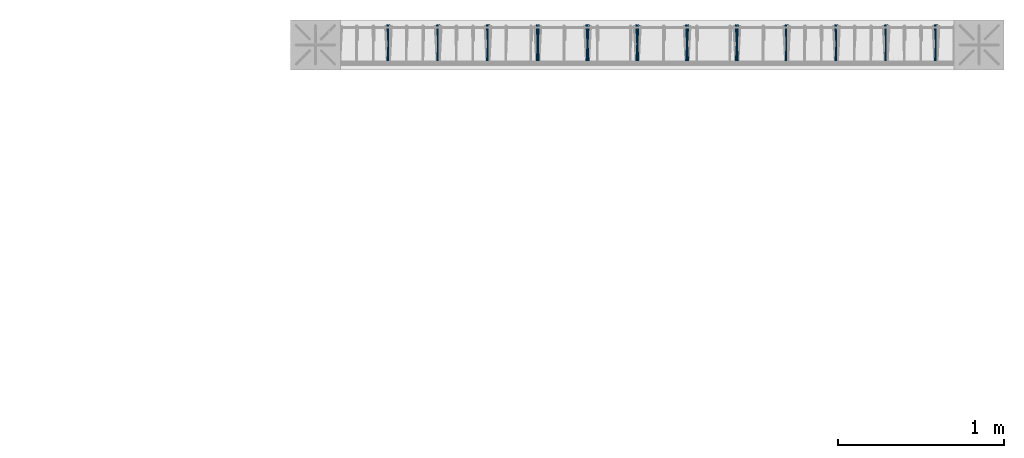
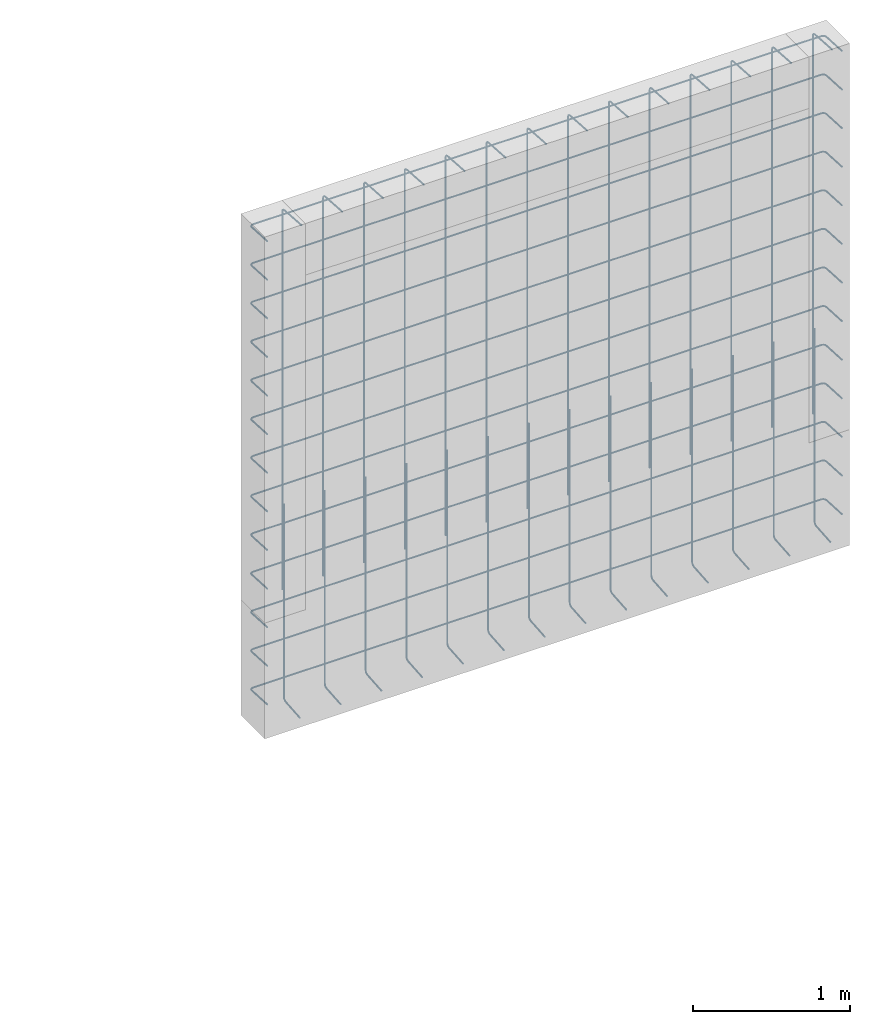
# One storey, part 10 of 11: 1 reinforcing bar.
"""IFC2X3 building model written with IfcOpenShell, lengths in metres."""

from ifc_helpers import new_model, entity, si_unit, direction, frame, origin, place, context, subcontext, project, spatial, shape, source, transform, mapped, element, save


model = new_model("IFC2X3")

# Units and contexts
model_context = context("Model", 3, precision=0.0, world=origin(), true_north=direction((0.0, 1.0)))
plan_context = context("Plan", 3, precision=0.0, world=origin(), true_north=direction((0.0, 1.0)))
body_context = subcontext(model_context, "Body", "Model", "MODEL_VIEW", scale=1.0)
ifc_project = project(units=[si_unit("LENGTHUNIT", "METRE"), si_unit("AREAUNIT", "SQUARE_METRE"), si_unit("VOLUMEUNIT", "CUBIC_METRE"), si_unit("PLANEANGLEUNIT", "RADIAN"), si_unit("THERMODYNAMICTEMPERATUREUNIT", "DEGREE_CELSIUS"), si_unit("FORCEUNIT", "NEWTON"), si_unit("MASSUNIT", "GRAM", prefix="KILO")], contexts=[model_context, plan_context])

# Site, building, storey
placement = place(None, origin())
site = spatial("IfcSite", under=ifc_project, at=placement, Name="Default Site", CompositionType="ELEMENT")
building = spatial("IfcBuilding", under=site, at=placement, Name="Default Building", CompositionType="ELEMENT")
storey_placement = place(placement, frame((0.0, 0.0, 3.0), z_axis=(1.0, 0.0, 0.0), x_axis=(0.0, 0.0, 1.0)))
storey = spatial("IfcBuildingStorey", under=building, at=storey_placement, Name="Piano 1", CompositionType="ELEMENT", Elevation=3.0)

# Reinforcing bar
shared_shape_1 = source(origin(), body_context, None, "AdvancedSweptSolid", [
    entity("IfcSweptDiskSolid", entity("IfcCompositeCurve", [entity("IfcCompositeCurveSegment", "CONTINUOUS", True, entity("IfcPolyline", [entity("IfcCartesianPoint", [0.0, 0.0, 0.0]), entity("IfcCartesianPoint", [0.0, 0.200034, -0.010716]), entity("IfcCartesianPoint", [0.003215, 0.212017, -0.011358]), entity("IfcCartesianPoint", [0.012, 0.220789, -0.011828]), entity("IfcCartesianPoint", [0.024, 0.224, -0.012]), entity("IfcCartesianPoint", [4.2, 0.224, -0.012]), entity("IfcCartesianPoint", [4.212, 0.220789, -0.011828]), entity("IfcCartesianPoint", [4.220785, 0.212017, -0.011358]), entity("IfcCartesianPoint", [4.224, 0.200034, -0.010716]), entity("IfcCartesianPoint", [4.224, 0.0, 0.0])]))], False), 0.006, 0.0, 0.0),
])
shared_shape_2 = source(origin(), body_context, None, "MappedRepresentation", [mapped(shared_shape_1, transform((32.388, 2.882, 2.935)))])
shared_shape_3 = source(origin(), body_context, None, "AdvancedSweptSolid", [
    entity("IfcSweptDiskSolid", entity("IfcCompositeCurve", [entity("IfcCompositeCurveSegment", "CONTINUOUS", True, entity("IfcPolyline", [entity("IfcCartesianPoint", [0.0, 0.0, 0.0]), entity("IfcCartesianPoint", [0.0, 0.200034, -0.010716]), entity("IfcCartesianPoint", [0.003215, 0.212017, -0.011358]), entity("IfcCartesianPoint", [0.012, 0.220789, -0.011828]), entity("IfcCartesianPoint", [0.024, 0.224, -0.012]), entity("IfcCartesianPoint", [4.2, 0.224, -0.012]), entity("IfcCartesianPoint", [4.212, 0.220789, -0.011828]), entity("IfcCartesianPoint", [4.220785, 0.212017, -0.011358]), entity("IfcCartesianPoint", [4.224, 0.200034, -0.010716]), entity("IfcCartesianPoint", [4.224, 0.0, 0.0])]))], False), 0.006, 0.0, 0.0),
])
shared_shape_4 = source(origin(), body_context, None, "MappedRepresentation", [mapped(shared_shape_3, transform((32.388, 2.882, 2.635)))])
shared_shape_5 = source(origin(), body_context, None, "AdvancedSweptSolid", [
    entity("IfcSweptDiskSolid", entity("IfcCompositeCurve", [entity("IfcCompositeCurveSegment", "CONTINUOUS", True, entity("IfcPolyline", [entity("IfcCartesianPoint", [0.0, 0.0, 0.0]), entity("IfcCartesianPoint", [0.0, 0.200034, -0.010716]), entity("IfcCartesianPoint", [0.003215, 0.212017, -0.011358]), entity("IfcCartesianPoint", [0.012, 0.220789, -0.011828]), entity("IfcCartesianPoint", [0.024, 0.224, -0.012]), entity("IfcCartesianPoint", [4.2, 0.224, -0.012]), entity("IfcCartesianPoint", [4.212, 0.220789, -0.011828]), entity("IfcCartesianPoint", [4.220785, 0.212017, -0.011358]), entity("IfcCartesianPoint", [4.224, 0.200034, -0.010716]), entity("IfcCartesianPoint", [4.224, 0.0, 0.0])]))], False), 0.006, 0.0, 0.0),
])
shared_shape_6 = source(origin(), body_context, None, "MappedRepresentation", [mapped(shared_shape_5, transform((32.388, 2.882, 2.335)))])
shared_shape_7 = source(origin(), body_context, None, "AdvancedSweptSolid", [
    entity("IfcSweptDiskSolid", entity("IfcCompositeCurve", [entity("IfcCompositeCurveSegment", "CONTINUOUS", True, entity("IfcPolyline", [entity("IfcCartesianPoint", [0.0, 0.0, 0.0]), entity("IfcCartesianPoint", [0.0, 0.200034, -0.010716]), entity("IfcCartesianPoint", [0.003215, 0.212017, -0.011358]), entity("IfcCartesianPoint", [0.012, 0.220789, -0.011828]), entity("IfcCartesianPoint", [0.024, 0.224, -0.012]), entity("IfcCartesianPoint", [4.2, 0.224, -0.012]), entity("IfcCartesianPoint", [4.212, 0.220789, -0.011828]), entity("IfcCartesianPoint", [4.220785, 0.212017, -0.011358]), entity("IfcCartesianPoint", [4.224, 0.200034, -0.010716]), entity("IfcCartesianPoint", [4.224, 0.0, 0.0])]))], False), 0.006, 0.0, 0.0),
])
shared_shape_8 = source(origin(), body_context, None, "MappedRepresentation", [mapped(shared_shape_7, transform((32.388, 2.882, 2.035)))])
shared_shape_9 = source(origin(), body_context, None, "AdvancedSweptSolid", [
    entity("IfcSweptDiskSolid", entity("IfcCompositeCurve", [entity("IfcCompositeCurveSegment", "CONTINUOUS", True, entity("IfcPolyline", [entity("IfcCartesianPoint", [0.0, 0.0, 0.0]), entity("IfcCartesianPoint", [0.0, 0.200034, -0.010716]), entity("IfcCartesianPoint", [0.003215, 0.212017, -0.011358]), entity("IfcCartesianPoint", [0.012, 0.220789, -0.011828]), entity("IfcCartesianPoint", [0.024, 0.224, -0.012]), entity("IfcCartesianPoint", [4.2, 0.224, -0.012]), entity("IfcCartesianPoint", [4.212, 0.220789, -0.011828]), entity("IfcCartesianPoint", [4.220785, 0.212017, -0.011358]), entity("IfcCartesianPoint", [4.224, 0.200034, -0.010716]), entity("IfcCartesianPoint", [4.224, 0.0, 0.0])]))], False), 0.006, 0.0, 0.0),
])
shared_shape_10 = source(origin(), body_context, None, "MappedRepresentation", [mapped(shared_shape_9, transform((32.388, 2.882, 1.735)))])
shared_shape_11 = source(origin(), body_context, None, "AdvancedSweptSolid", [
    entity("IfcSweptDiskSolid", entity("IfcCompositeCurve", [entity("IfcCompositeCurveSegment", "CONTINUOUS", True, entity("IfcPolyline", [entity("IfcCartesianPoint", [0.0, 0.0, 0.0]), entity("IfcCartesianPoint", [0.0, 0.200034, -0.010716]), entity("IfcCartesianPoint", [0.003215, 0.212017, -0.011358]), entity("IfcCartesianPoint", [0.012, 0.220789, -0.011828]), entity("IfcCartesianPoint", [0.024, 0.224, -0.012]), entity("IfcCartesianPoint", [4.2, 0.224, -0.012]), entity("IfcCartesianPoint", [4.212, 0.220789, -0.011828]), entity("IfcCartesianPoint", [4.220785, 0.212017, -0.011358]), entity("IfcCartesianPoint", [4.224, 0.200034, -0.010716]), entity("IfcCartesianPoint", [4.224, 0.0, 0.0])]))], False), 0.006, 0.0, 0.0),
])
shared_shape_12 = source(origin(), body_context, None, "MappedRepresentation", [mapped(shared_shape_11, transform((32.388, 2.882, 1.435)))])
shared_shape_13 = source(origin(), body_context, None, "AdvancedSweptSolid", [
    entity("IfcSweptDiskSolid", entity("IfcCompositeCurve", [entity("IfcCompositeCurveSegment", "CONTINUOUS", True, entity("IfcPolyline", [entity("IfcCartesianPoint", [0.0, 0.0, 0.0]), entity("IfcCartesianPoint", [0.0, 0.200034, -0.010716]), entity("IfcCartesianPoint", [0.003215, 0.212017, -0.011358]), entity("IfcCartesianPoint", [0.012, 0.220789, -0.011828]), entity("IfcCartesianPoint", [0.024, 0.224, -0.012]), entity("IfcCartesianPoint", [4.2, 0.224, -0.012]), entity("IfcCartesianPoint", [4.212, 0.220789, -0.011828]), entity("IfcCartesianPoint", [4.220785, 0.212017, -0.011358]), entity("IfcCartesianPoint", [4.224, 0.200034, -0.010716]), entity("IfcCartesianPoint", [4.224, 0.0, 0.0])]))], False), 0.006, 0.0, 0.0),
])
shared_shape_14 = source(origin(), body_context, None, "MappedRepresentation", [mapped(shared_shape_13, transform((32.388, 2.882, 1.135)))])
shared_shape_15 = source(origin(), body_context, None, "AdvancedSweptSolid", [
    entity("IfcSweptDiskSolid", entity("IfcCompositeCurve", [entity("IfcCompositeCurveSegment", "CONTINUOUS", True, entity("IfcPolyline", [entity("IfcCartesianPoint", [0.0, 0.0, 0.0]), entity("IfcCartesianPoint", [0.0, 0.200034, -0.010716]), entity("IfcCartesianPoint", [0.003215, 0.212017, -0.011358]), entity("IfcCartesianPoint", [0.012, 0.220789, -0.011828]), entity("IfcCartesianPoint", [0.024, 0.224, -0.012]), entity("IfcCartesianPoint", [4.2, 0.224, -0.012]), entity("IfcCartesianPoint", [4.212, 0.220789, -0.011828]), entity("IfcCartesianPoint", [4.220785, 0.212017, -0.011358]), entity("IfcCartesianPoint", [4.224, 0.200034, -0.010716]), entity("IfcCartesianPoint", [4.224, 0.0, 0.0])]))], False), 0.006, 0.0, 0.0),
])
shared_shape_16 = source(origin(), body_context, None, "MappedRepresentation", [mapped(shared_shape_15, transform((32.388, 2.882, 0.835)))])
shared_shape_17 = source(origin(), body_context, None, "AdvancedSweptSolid", [
    entity("IfcSweptDiskSolid", entity("IfcCompositeCurve", [entity("IfcCompositeCurveSegment", "CONTINUOUS", True, entity("IfcPolyline", [entity("IfcCartesianPoint", [0.0, 0.0, 0.0]), entity("IfcCartesianPoint", [0.0, 0.200034, -0.010716]), entity("IfcCartesianPoint", [0.003215, 0.212017, -0.011358]), entity("IfcCartesianPoint", [0.012, 0.220789, -0.011828]), entity("IfcCartesianPoint", [0.024, 0.224, -0.012]), entity("IfcCartesianPoint", [4.2, 0.224, -0.012]), entity("IfcCartesianPoint", [4.212, 0.220789, -0.011828]), entity("IfcCartesianPoint", [4.220785, 0.212017, -0.011358]), entity("IfcCartesianPoint", [4.224, 0.200034, -0.010716]), entity("IfcCartesianPoint", [4.224, 0.0, 0.0])]))], False), 0.006, 0.0, 0.0),
])
shared_shape_18 = source(origin(), body_context, None, "MappedRepresentation", [mapped(shared_shape_17, transform((32.388, 2.882, 0.535)))])
shared_shape_19 = source(origin(), body_context, None, "AdvancedSweptSolid", [
    entity("IfcSweptDiskSolid", entity("IfcCompositeCurve", [entity("IfcCompositeCurveSegment", "CONTINUOUS", True, entity("IfcPolyline", [entity("IfcCartesianPoint", [0.0, 0.0, 0.0]), entity("IfcCartesianPoint", [0.0, 0.200034, -0.010716]), entity("IfcCartesianPoint", [0.003215, 0.212017, -0.011358]), entity("IfcCartesianPoint", [0.012, 0.220789, -0.011828]), entity("IfcCartesianPoint", [0.024, 0.224, -0.012]), entity("IfcCartesianPoint", [4.2, 0.224, -0.012]), entity("IfcCartesianPoint", [4.212, 0.220789, -0.011828]), entity("IfcCartesianPoint", [4.220785, 0.212017, -0.011358]), entity("IfcCartesianPoint", [4.224, 0.200034, -0.010716]), entity("IfcCartesianPoint", [4.224, 0.0, 0.0])]))], False), 0.006, 0.0, 0.0),
])
shared_shape_20 = source(origin(), body_context, None, "MappedRepresentation", [mapped(shared_shape_19, transform((32.388, 2.882, 0.235)))])
shared_shape_21 = source(origin(), body_context, None, "AdvancedSweptSolid", [
    entity("IfcSweptDiskSolid", entity("IfcCompositeCurve", [entity("IfcCompositeCurveSegment", "CONTINUOUS", True, entity("IfcPolyline", [entity("IfcCartesianPoint", [0.0, 0.0, 0.0]), entity("IfcCartesianPoint", [0.0, 0.200034, -0.010716]), entity("IfcCartesianPoint", [0.003215, 0.212017, -0.011358]), entity("IfcCartesianPoint", [0.012, 0.220789, -0.011828]), entity("IfcCartesianPoint", [0.024, 0.224, -0.012]), entity("IfcCartesianPoint", [4.2, 0.224, -0.012]), entity("IfcCartesianPoint", [4.212, 0.220789, -0.011828]), entity("IfcCartesianPoint", [4.220785, 0.212017, -0.011358]), entity("IfcCartesianPoint", [4.224, 0.200034, -0.010716]), entity("IfcCartesianPoint", [4.224, 0.0, 0.0])]))], False), 0.006, 0.0, 0.0),
])
shared_shape_22 = source(origin(), body_context, None, "MappedRepresentation", [mapped(shared_shape_21, transform((32.388, 2.882, -0.065)))])
shared_shape_23 = source(origin(), body_context, None, "AdvancedSweptSolid", [
    entity("IfcSweptDiskSolid", entity("IfcCompositeCurve", [entity("IfcCompositeCurveSegment", "CONTINUOUS", True, entity("IfcPolyline", [entity("IfcCartesianPoint", [0.0, 0.0, 0.0]), entity("IfcCartesianPoint", [0.0, 0.200034, -0.010716]), entity("IfcCartesianPoint", [0.003215, 0.212017, -0.011358]), entity("IfcCartesianPoint", [0.012, 0.220789, -0.011828]), entity("IfcCartesianPoint", [0.024, 0.224, -0.012]), entity("IfcCartesianPoint", [4.2, 0.224, -0.012]), entity("IfcCartesianPoint", [4.212, 0.220789, -0.011828]), entity("IfcCartesianPoint", [4.220785, 0.212017, -0.011358]), entity("IfcCartesianPoint", [4.224, 0.200034, -0.010716]), entity("IfcCartesianPoint", [4.224, 0.0, 0.0])]))], False), 0.006, 0.0, 0.0),
])
shared_shape_24 = source(origin(), body_context, None, "MappedRepresentation", [mapped(shared_shape_23, transform((32.388, 2.882, -0.365)))])
shared_shape_25 = source(origin(), body_context, None, "AdvancedSweptSolid", [
    entity("IfcSweptDiskSolid", entity("IfcCompositeCurve", [entity("IfcCompositeCurveSegment", "CONTINUOUS", True, entity("IfcPolyline", [entity("IfcCartesianPoint", [0.0, 0.0, 0.0]), entity("IfcCartesianPoint", [0.0, 0.200034, -0.010716]), entity("IfcCartesianPoint", [0.003215, 0.212017, -0.011358]), entity("IfcCartesianPoint", [0.012, 0.220789, -0.011828]), entity("IfcCartesianPoint", [0.024, 0.224, -0.012]), entity("IfcCartesianPoint", [4.2, 0.224, -0.012]), entity("IfcCartesianPoint", [4.212, 0.220789, -0.011828]), entity("IfcCartesianPoint", [4.220785, 0.212017, -0.011358]), entity("IfcCartesianPoint", [4.224, 0.200034, -0.010716]), entity("IfcCartesianPoint", [4.224, 0.0, 0.0])]))], False), 0.006, 0.0, 0.0),
])
shared_shape_26 = source(origin(), body_context, None, "MappedRepresentation", [mapped(shared_shape_25, transform((32.388, 2.882, -0.665)))])
shared_shape_27 = source(origin(), body_context, None, "AdvancedSweptSolid", [
    entity("IfcSweptDiskSolid", entity("IfcCompositeCurve", [entity("IfcCompositeCurveSegment", "CONTINUOUS", True, entity("IfcPolyline", [entity("IfcCartesianPoint", [0.0, 0.0, 0.0]), entity("IfcCartesianPoint", [0.010716, 0.200034, 0.0]), entity("IfcCartesianPoint", [0.011358, 0.212017, 0.003215]), entity("IfcCartesianPoint", [0.011828, 0.220789, 0.012]), entity("IfcCartesianPoint", [0.012, 0.224, 0.024]), entity("IfcCartesianPoint", [0.012, 0.224, 1.522])]))], False), 0.006, 0.0, 0.0),
])
shared_shape_28 = source(origin(), body_context, None, "MappedRepresentation", [mapped(shared_shape_27, transform((32.634, 2.894, -0.862)))])
shared_shape_29 = source(origin(), body_context, None, "AdvancedSweptSolid", [
    entity("IfcSweptDiskSolid", entity("IfcCompositeCurve", [entity("IfcCompositeCurveSegment", "CONTINUOUS", True, entity("IfcPolyline", [entity("IfcCartesianPoint", [0.0, 0.0, 0.0]), entity("IfcCartesianPoint", [0.0, 0.0, 2.938]), entity("IfcCartesianPoint", [0.000172, -0.003211, 2.95]), entity("IfcCartesianPoint", [0.000642, -0.011983, 2.958785]), entity("IfcCartesianPoint", [0.001284, -0.023966, 2.962]), entity("IfcCartesianPoint", [0.012, -0.224, 2.962])]))], False), 0.006, 0.0, 0.0),
])
shared_shape_30 = source(origin(), body_context, None, "MappedRepresentation", [mapped(shared_shape_29, transform((32.634, 3.118, 0.0)))])
shared_shape_31 = source(origin(), body_context, None, "AdvancedSweptSolid", [
    entity("IfcSweptDiskSolid", entity("IfcCompositeCurve", [entity("IfcCompositeCurveSegment", "CONTINUOUS", True, entity("IfcPolyline", [entity("IfcCartesianPoint", [0.0, 0.0, 0.0]), entity("IfcCartesianPoint", [0.010716, 0.200034, 0.0]), entity("IfcCartesianPoint", [0.011358, 0.212017, 0.003215]), entity("IfcCartesianPoint", [0.011828, 0.220789, 0.012]), entity("IfcCartesianPoint", [0.012, 0.224, 0.024]), entity("IfcCartesianPoint", [0.012, 0.224, 1.522])]))], False), 0.006, 0.0, 0.0),
])
shared_shape_32 = source(origin(), body_context, None, "MappedRepresentation", [mapped(shared_shape_31, transform((32.934, 2.894, -0.862)))])
shared_shape_33 = source(origin(), body_context, None, "AdvancedSweptSolid", [
    entity("IfcSweptDiskSolid", entity("IfcCompositeCurve", [entity("IfcCompositeCurveSegment", "CONTINUOUS", True, entity("IfcPolyline", [entity("IfcCartesianPoint", [0.0, 0.0, 0.0]), entity("IfcCartesianPoint", [0.0, 0.0, 2.938]), entity("IfcCartesianPoint", [0.000172, -0.003211, 2.95]), entity("IfcCartesianPoint", [0.000642, -0.011983, 2.958785]), entity("IfcCartesianPoint", [0.001284, -0.023966, 2.962]), entity("IfcCartesianPoint", [0.012, -0.224, 2.962])]))], False), 0.006, 0.0, 0.0),
])
shared_shape_34 = source(origin(), body_context, None, "MappedRepresentation", [mapped(shared_shape_33, transform((32.934, 3.118, 0.0)))])
shared_shape_35 = source(origin(), body_context, None, "AdvancedSweptSolid", [
    entity("IfcSweptDiskSolid", entity("IfcCompositeCurve", [entity("IfcCompositeCurveSegment", "CONTINUOUS", True, entity("IfcPolyline", [entity("IfcCartesianPoint", [0.0, 0.0, 0.0]), entity("IfcCartesianPoint", [0.010716, 0.200034, 0.0]), entity("IfcCartesianPoint", [0.011358, 0.212017, 0.003215]), entity("IfcCartesianPoint", [0.011828, 0.220789, 0.012]), entity("IfcCartesianPoint", [0.012, 0.224, 0.024]), entity("IfcCartesianPoint", [0.012, 0.224, 1.522])]))], False), 0.006, 0.0, 0.0),
])
shared_shape_36 = source(origin(), body_context, None, "MappedRepresentation", [mapped(shared_shape_35, transform((33.234, 2.894, -0.862)))])
shared_shape_37 = source(origin(), body_context, None, "AdvancedSweptSolid", [
    entity("IfcSweptDiskSolid", entity("IfcCompositeCurve", [entity("IfcCompositeCurveSegment", "CONTINUOUS", True, entity("IfcPolyline", [entity("IfcCartesianPoint", [0.0, 0.0, 0.0]), entity("IfcCartesianPoint", [0.0, 0.0, 2.938]), entity("IfcCartesianPoint", [0.000172, -0.003211, 2.95]), entity("IfcCartesianPoint", [0.000642, -0.011983, 2.958785]), entity("IfcCartesianPoint", [0.001284, -0.023966, 2.962]), entity("IfcCartesianPoint", [0.012, -0.224, 2.962])]))], False), 0.006, 0.0, 0.0),
])
shared_shape_38 = source(origin(), body_context, None, "MappedRepresentation", [mapped(shared_shape_37, transform((33.234, 3.118, 0.0)))])
shared_shape_39 = source(origin(), body_context, None, "AdvancedSweptSolid", [
    entity("IfcSweptDiskSolid", entity("IfcCompositeCurve", [entity("IfcCompositeCurveSegment", "CONTINUOUS", True, entity("IfcPolyline", [entity("IfcCartesianPoint", [0.0, 0.0, 0.0]), entity("IfcCartesianPoint", [0.010716, 0.200034, 0.0]), entity("IfcCartesianPoint", [0.011358, 0.212017, 0.003215]), entity("IfcCartesianPoint", [0.011828, 0.220789, 0.012]), entity("IfcCartesianPoint", [0.012, 0.224, 0.024]), entity("IfcCartesianPoint", [0.012, 0.224, 1.522])]))], False), 0.006, 0.0, 0.0),
])
shared_shape_40 = source(origin(), body_context, None, "MappedRepresentation", [mapped(shared_shape_39, transform((33.534, 2.894, -0.862)))])
shared_shape_41 = source(origin(), body_context, None, "AdvancedSweptSolid", [
    entity("IfcSweptDiskSolid", entity("IfcCompositeCurve", [entity("IfcCompositeCurveSegment", "CONTINUOUS", True, entity("IfcPolyline", [entity("IfcCartesianPoint", [0.0, 0.0, 0.0]), entity("IfcCartesianPoint", [0.0, 0.0, 2.938]), entity("IfcCartesianPoint", [0.000172, -0.003211, 2.95]), entity("IfcCartesianPoint", [0.000642, -0.011983, 2.958785]), entity("IfcCartesianPoint", [0.001284, -0.023966, 2.962]), entity("IfcCartesianPoint", [0.012, -0.224, 2.962])]))], False), 0.006, 0.0, 0.0),
])
shared_shape_42 = source(origin(), body_context, None, "MappedRepresentation", [mapped(shared_shape_41, transform((33.534, 3.118, 0.0)))])
shared_shape_43 = source(origin(), body_context, None, "AdvancedSweptSolid", [
    entity("IfcSweptDiskSolid", entity("IfcCompositeCurve", [entity("IfcCompositeCurveSegment", "CONTINUOUS", True, entity("IfcPolyline", [entity("IfcCartesianPoint", [0.0, 0.0, 0.0]), entity("IfcCartesianPoint", [0.010716, 0.200034, 0.0]), entity("IfcCartesianPoint", [0.011358, 0.212017, 0.003215]), entity("IfcCartesianPoint", [0.011828, 0.220789, 0.012]), entity("IfcCartesianPoint", [0.012, 0.224, 0.024]), entity("IfcCartesianPoint", [0.012, 0.224, 1.522])]))], False), 0.006, 0.0, 0.0),
])
shared_shape_44 = source(origin(), body_context, None, "MappedRepresentation", [mapped(shared_shape_43, transform((33.834, 2.894, -0.862)))])
shared_shape_45 = source(origin(), body_context, None, "AdvancedSweptSolid", [
    entity("IfcSweptDiskSolid", entity("IfcCompositeCurve", [entity("IfcCompositeCurveSegment", "CONTINUOUS", True, entity("IfcPolyline", [entity("IfcCartesianPoint", [0.0, 0.0, 0.0]), entity("IfcCartesianPoint", [0.0, 0.0, 2.938]), entity("IfcCartesianPoint", [0.000172, -0.003211, 2.95]), entity("IfcCartesianPoint", [0.000642, -0.011983, 2.958785]), entity("IfcCartesianPoint", [0.001284, -0.023966, 2.962]), entity("IfcCartesianPoint", [0.012, -0.224, 2.962])]))], False), 0.006, 0.0, 0.0),
])
shared_shape_46 = source(origin(), body_context, None, "MappedRepresentation", [mapped(shared_shape_45, transform((33.834, 3.118, 0.0)))])
shared_shape_47 = source(origin(), body_context, None, "AdvancedSweptSolid", [
    entity("IfcSweptDiskSolid", entity("IfcCompositeCurve", [entity("IfcCompositeCurveSegment", "CONTINUOUS", True, entity("IfcPolyline", [entity("IfcCartesianPoint", [0.0, 0.0, 0.0]), entity("IfcCartesianPoint", [0.010716, 0.200034, 0.0]), entity("IfcCartesianPoint", [0.011358, 0.212017, 0.003215]), entity("IfcCartesianPoint", [0.011828, 0.220789, 0.012]), entity("IfcCartesianPoint", [0.012, 0.224, 0.024]), entity("IfcCartesianPoint", [0.012, 0.224, 1.522])]))], False), 0.006, 0.0, 0.0),
])
shared_shape_48 = source(origin(), body_context, None, "MappedRepresentation", [mapped(shared_shape_47, transform((34.134, 2.894, -0.862)))])
shared_shape_49 = source(origin(), body_context, None, "AdvancedSweptSolid", [
    entity("IfcSweptDiskSolid", entity("IfcCompositeCurve", [entity("IfcCompositeCurveSegment", "CONTINUOUS", True, entity("IfcPolyline", [entity("IfcCartesianPoint", [0.0, 0.0, 0.0]), entity("IfcCartesianPoint", [0.0, 0.0, 2.938]), entity("IfcCartesianPoint", [0.000172, -0.003211, 2.95]), entity("IfcCartesianPoint", [0.000642, -0.011983, 2.958785]), entity("IfcCartesianPoint", [0.001284, -0.023966, 2.962]), entity("IfcCartesianPoint", [0.012, -0.224, 2.962])]))], False), 0.006, 0.0, 0.0),
])
shared_shape_50 = source(origin(), body_context, None, "MappedRepresentation", [mapped(shared_shape_49, transform((34.134, 3.118, 0.0)))])
shared_shape_51 = source(origin(), body_context, None, "AdvancedSweptSolid", [
    entity("IfcSweptDiskSolid", entity("IfcCompositeCurve", [entity("IfcCompositeCurveSegment", "CONTINUOUS", True, entity("IfcPolyline", [entity("IfcCartesianPoint", [0.0, 0.0, 0.0]), entity("IfcCartesianPoint", [0.010716, 0.200034, 0.0]), entity("IfcCartesianPoint", [0.011358, 0.212017, 0.003215]), entity("IfcCartesianPoint", [0.011828, 0.220789, 0.012]), entity("IfcCartesianPoint", [0.012, 0.224, 0.024]), entity("IfcCartesianPoint", [0.012, 0.224, 1.522])]))], False), 0.006, 0.0, 0.0),
])
shared_shape_52 = source(origin(), body_context, None, "MappedRepresentation", [mapped(shared_shape_51, transform((34.434, 2.894, -0.862)))])
shared_shape_53 = source(origin(), body_context, None, "AdvancedSweptSolid", [
    entity("IfcSweptDiskSolid", entity("IfcCompositeCurve", [entity("IfcCompositeCurveSegment", "CONTINUOUS", True, entity("IfcPolyline", [entity("IfcCartesianPoint", [0.0, 0.0, 0.0]), entity("IfcCartesianPoint", [0.0, 0.0, 2.938]), entity("IfcCartesianPoint", [0.000172, -0.003211, 2.95]), entity("IfcCartesianPoint", [0.000642, -0.011983, 2.958785]), entity("IfcCartesianPoint", [0.001284, -0.023966, 2.962]), entity("IfcCartesianPoint", [0.012, -0.224, 2.962])]))], False), 0.006, 0.0, 0.0),
])
shared_shape_54 = source(origin(), body_context, None, "MappedRepresentation", [mapped(shared_shape_53, transform((34.434, 3.118, 0.0)))])
shared_shape_55 = source(origin(), body_context, None, "AdvancedSweptSolid", [
    entity("IfcSweptDiskSolid", entity("IfcCompositeCurve", [entity("IfcCompositeCurveSegment", "CONTINUOUS", True, entity("IfcPolyline", [entity("IfcCartesianPoint", [0.0, 0.0, 0.0]), entity("IfcCartesianPoint", [0.010716, 0.200034, 0.0]), entity("IfcCartesianPoint", [0.011358, 0.212017, 0.003215]), entity("IfcCartesianPoint", [0.011828, 0.220789, 0.012]), entity("IfcCartesianPoint", [0.012, 0.224, 0.024]), entity("IfcCartesianPoint", [0.012, 0.224, 1.522])]))], False), 0.006, 0.0, 0.0),
])
shared_shape_56 = source(origin(), body_context, None, "MappedRepresentation", [mapped(shared_shape_55, transform((34.734, 2.894, -0.862)))])
shared_shape_57 = source(origin(), body_context, None, "AdvancedSweptSolid", [
    entity("IfcSweptDiskSolid", entity("IfcCompositeCurve", [entity("IfcCompositeCurveSegment", "CONTINUOUS", True, entity("IfcPolyline", [entity("IfcCartesianPoint", [0.0, 0.0, 0.0]), entity("IfcCartesianPoint", [0.0, 0.0, 2.938]), entity("IfcCartesianPoint", [0.000172, -0.003211, 2.95]), entity("IfcCartesianPoint", [0.000642, -0.011983, 2.958785]), entity("IfcCartesianPoint", [0.001284, -0.023966, 2.962]), entity("IfcCartesianPoint", [0.012, -0.224, 2.962])]))], False), 0.006, 0.0, 0.0),
])
shared_shape_58 = source(origin(), body_context, None, "MappedRepresentation", [mapped(shared_shape_57, transform((34.734, 3.118, 0.0)))])
shared_shape_59 = source(origin(), body_context, None, "AdvancedSweptSolid", [
    entity("IfcSweptDiskSolid", entity("IfcCompositeCurve", [entity("IfcCompositeCurveSegment", "CONTINUOUS", True, entity("IfcPolyline", [entity("IfcCartesianPoint", [0.0, 0.0, 0.0]), entity("IfcCartesianPoint", [0.010716, 0.200034, 0.0]), entity("IfcCartesianPoint", [0.011358, 0.212017, 0.003215]), entity("IfcCartesianPoint", [0.011828, 0.220789, 0.012]), entity("IfcCartesianPoint", [0.012, 0.224, 0.024]), entity("IfcCartesianPoint", [0.012, 0.224, 1.522])]))], False), 0.006, 0.0, 0.0),
])
shared_shape_60 = source(origin(), body_context, None, "MappedRepresentation", [mapped(shared_shape_59, transform((35.034, 2.894, -0.862)))])
shared_shape_61 = source(origin(), body_context, None, "AdvancedSweptSolid", [
    entity("IfcSweptDiskSolid", entity("IfcCompositeCurve", [entity("IfcCompositeCurveSegment", "CONTINUOUS", True, entity("IfcPolyline", [entity("IfcCartesianPoint", [0.0, 0.0, 0.0]), entity("IfcCartesianPoint", [0.0, 0.0, 2.938]), entity("IfcCartesianPoint", [0.000172, -0.003211, 2.95]), entity("IfcCartesianPoint", [0.000642, -0.011983, 2.958785]), entity("IfcCartesianPoint", [0.001284, -0.023966, 2.962]), entity("IfcCartesianPoint", [0.012, -0.224, 2.962])]))], False), 0.006, 0.0, 0.0),
])
shared_shape_62 = source(origin(), body_context, None, "MappedRepresentation", [mapped(shared_shape_61, transform((35.034, 3.118, 0.0)))])
shared_shape_63 = source(origin(), body_context, None, "AdvancedSweptSolid", [
    entity("IfcSweptDiskSolid", entity("IfcCompositeCurve", [entity("IfcCompositeCurveSegment", "CONTINUOUS", True, entity("IfcPolyline", [entity("IfcCartesianPoint", [0.0, 0.0, 0.0]), entity("IfcCartesianPoint", [0.010716, 0.200034, 0.0]), entity("IfcCartesianPoint", [0.011358, 0.212017, 0.003215]), entity("IfcCartesianPoint", [0.011828, 0.220789, 0.012]), entity("IfcCartesianPoint", [0.012, 0.224, 0.024]), entity("IfcCartesianPoint", [0.012, 0.224, 1.522])]))], False), 0.006, 0.0, 0.0),
])
shared_shape_64 = source(origin(), body_context, None, "MappedRepresentation", [mapped(shared_shape_63, transform((35.334, 2.894, -0.862)))])
shared_shape_65 = source(origin(), body_context, None, "AdvancedSweptSolid", [
    entity("IfcSweptDiskSolid", entity("IfcCompositeCurve", [entity("IfcCompositeCurveSegment", "CONTINUOUS", True, entity("IfcPolyline", [entity("IfcCartesianPoint", [0.0, 0.0, 0.0]), entity("IfcCartesianPoint", [0.0, 0.0, 2.938]), entity("IfcCartesianPoint", [0.000172, -0.003211, 2.95]), entity("IfcCartesianPoint", [0.000642, -0.011983, 2.958785]), entity("IfcCartesianPoint", [0.001284, -0.023966, 2.962]), entity("IfcCartesianPoint", [0.012, -0.224, 2.962])]))], False), 0.006, 0.0, 0.0),
])
shared_shape_66 = source(origin(), body_context, None, "MappedRepresentation", [mapped(shared_shape_65, transform((35.334, 3.118, 0.0)))])
shared_shape_67 = source(origin(), body_context, None, "AdvancedSweptSolid", [
    entity("IfcSweptDiskSolid", entity("IfcCompositeCurve", [entity("IfcCompositeCurveSegment", "CONTINUOUS", True, entity("IfcPolyline", [entity("IfcCartesianPoint", [0.0, 0.0, 0.0]), entity("IfcCartesianPoint", [0.010716, 0.200034, 0.0]), entity("IfcCartesianPoint", [0.011358, 0.212017, 0.003215]), entity("IfcCartesianPoint", [0.011828, 0.220789, 0.012]), entity("IfcCartesianPoint", [0.012, 0.224, 0.024]), entity("IfcCartesianPoint", [0.012, 0.224, 1.522])]))], False), 0.006, 0.0, 0.0),
])
shared_shape_68 = source(origin(), body_context, None, "MappedRepresentation", [mapped(shared_shape_67, transform((35.634, 2.894, -0.862)))])
shared_shape_69 = source(origin(), body_context, None, "AdvancedSweptSolid", [
    entity("IfcSweptDiskSolid", entity("IfcCompositeCurve", [entity("IfcCompositeCurveSegment", "CONTINUOUS", True, entity("IfcPolyline", [entity("IfcCartesianPoint", [0.0, 0.0, 0.0]), entity("IfcCartesianPoint", [0.0, 0.0, 2.938]), entity("IfcCartesianPoint", [0.000172, -0.003211, 2.95]), entity("IfcCartesianPoint", [0.000642, -0.011983, 2.958785]), entity("IfcCartesianPoint", [0.001284, -0.023966, 2.962]), entity("IfcCartesianPoint", [0.012, -0.224, 2.962])]))], False), 0.006, 0.0, 0.0),
])
shared_shape_70 = source(origin(), body_context, None, "MappedRepresentation", [mapped(shared_shape_69, transform((35.634, 3.118, 0.0)))])
shared_shape_71 = source(origin(), body_context, None, "AdvancedSweptSolid", [
    entity("IfcSweptDiskSolid", entity("IfcCompositeCurve", [entity("IfcCompositeCurveSegment", "CONTINUOUS", True, entity("IfcPolyline", [entity("IfcCartesianPoint", [0.0, 0.0, 0.0]), entity("IfcCartesianPoint", [0.010716, 0.200034, 0.0]), entity("IfcCartesianPoint", [0.011358, 0.212017, 0.003215]), entity("IfcCartesianPoint", [0.011828, 0.220789, 0.012]), entity("IfcCartesianPoint", [0.012, 0.224, 0.024]), entity("IfcCartesianPoint", [0.012, 0.224, 1.522])]))], False), 0.006, 0.0, 0.0),
])
shared_shape_72 = source(origin(), body_context, None, "MappedRepresentation", [mapped(shared_shape_71, transform((35.934, 2.894, -0.862)))])
shared_shape_73 = source(origin(), body_context, None, "AdvancedSweptSolid", [
    entity("IfcSweptDiskSolid", entity("IfcCompositeCurve", [entity("IfcCompositeCurveSegment", "CONTINUOUS", True, entity("IfcPolyline", [entity("IfcCartesianPoint", [0.0, 0.0, 0.0]), entity("IfcCartesianPoint", [0.0, 0.0, 2.938]), entity("IfcCartesianPoint", [0.000172, -0.003211, 2.95]), entity("IfcCartesianPoint", [0.000642, -0.011983, 2.958785]), entity("IfcCartesianPoint", [0.001284, -0.023966, 2.962]), entity("IfcCartesianPoint", [0.012, -0.224, 2.962])]))], False), 0.006, 0.0, 0.0),
])
shared_shape_74 = source(origin(), body_context, None, "MappedRepresentation", [mapped(shared_shape_73, transform((35.934, 3.118, 0.0)))])
shared_shape_75 = source(origin(), body_context, None, "AdvancedSweptSolid", [
    entity("IfcSweptDiskSolid", entity("IfcCompositeCurve", [entity("IfcCompositeCurveSegment", "CONTINUOUS", True, entity("IfcPolyline", [entity("IfcCartesianPoint", [0.0, 0.0, 0.0]), entity("IfcCartesianPoint", [0.010716, 0.200034, 0.0]), entity("IfcCartesianPoint", [0.011358, 0.212017, 0.003215]), entity("IfcCartesianPoint", [0.011828, 0.220789, 0.012]), entity("IfcCartesianPoint", [0.012, 0.224, 0.024]), entity("IfcCartesianPoint", [0.012, 0.224, 1.522])]))], False), 0.006, 0.0, 0.0),
])
shared_shape_76 = source(origin(), body_context, None, "MappedRepresentation", [mapped(shared_shape_75, transform((36.234, 2.894, -0.862)))])
shared_shape_77 = source(origin(), body_context, None, "AdvancedSweptSolid", [
    entity("IfcSweptDiskSolid", entity("IfcCompositeCurve", [entity("IfcCompositeCurveSegment", "CONTINUOUS", True, entity("IfcPolyline", [entity("IfcCartesianPoint", [0.0, 0.0, 0.0]), entity("IfcCartesianPoint", [0.0, 0.0, 2.938]), entity("IfcCartesianPoint", [0.000172, -0.003211, 2.95]), entity("IfcCartesianPoint", [0.000642, -0.011983, 2.958785]), entity("IfcCartesianPoint", [0.001284, -0.023966, 2.962]), entity("IfcCartesianPoint", [0.012, -0.224, 2.962])]))], False), 0.006, 0.0, 0.0),
])
shared_shape_78 = source(origin(), body_context, None, "MappedRepresentation", [mapped(shared_shape_77, transform((36.234, 3.118, 0.0)))])
shared_shape_79 = source(origin(), body_context, None, "AdvancedSweptSolid", [
    entity("IfcSweptDiskSolid", entity("IfcCompositeCurve", [entity("IfcCompositeCurveSegment", "CONTINUOUS", True, entity("IfcPolyline", [entity("IfcCartesianPoint", [0.0, 0.0, 0.0]), entity("IfcCartesianPoint", [0.010716, 0.200034, 0.0]), entity("IfcCartesianPoint", [0.011358, 0.212017, 0.003215]), entity("IfcCartesianPoint", [0.011828, 0.220789, 0.012]), entity("IfcCartesianPoint", [0.012, 0.224, 0.024]), entity("IfcCartesianPoint", [0.012, 0.224, 1.522])]))], False), 0.006, 0.0, 0.0),
])
shared_shape_80 = source(origin(), body_context, None, "MappedRepresentation", [mapped(shared_shape_79, transform((36.534, 2.894, -0.862)))])
shared_shape_81 = source(origin(), body_context, None, "AdvancedSweptSolid", [
    entity("IfcSweptDiskSolid", entity("IfcCompositeCurve", [entity("IfcCompositeCurveSegment", "CONTINUOUS", True, entity("IfcPolyline", [entity("IfcCartesianPoint", [0.0, 0.0, 0.0]), entity("IfcCartesianPoint", [0.0, 0.0, 2.938]), entity("IfcCartesianPoint", [0.000172, -0.003211, 2.95]), entity("IfcCartesianPoint", [0.000642, -0.011983, 2.958785]), entity("IfcCartesianPoint", [0.001284, -0.023966, 2.962]), entity("IfcCartesianPoint", [0.012, -0.224, 2.962])]))], False), 0.006, 0.0, 0.0),
])
shared_shape_82 = source(origin(), body_context, None, "MappedRepresentation", [mapped(shared_shape_81, transform((36.534, 3.118, 0.0)))])
element("IfcReinforcingBar", 1, at=placement, inside=storey, Name="Arm Inferiore; MagaParete:1 [Piano:1]", BarLength=129.758424, BarRole="MAIN", BarSurface="TEXTURED", NominalDiameter=0.012, shapes=[
    shape(body_context, None, "MappedRepresentation", [mapped(shared_shape_2, transform((0.0, 0.0, 0.0))), mapped(shared_shape_4, transform((0.0, 0.0, 0.0))), mapped(shared_shape_6, transform((0.0, 0.0, 0.0))), mapped(shared_shape_8, transform((0.0, 0.0, 0.0))), mapped(shared_shape_10, transform((0.0, 0.0, 0.0))), mapped(shared_shape_12, transform((0.0, 0.0, 0.0))), mapped(shared_shape_14, transform((0.0, 0.0, 0.0))), mapped(shared_shape_16, transform((0.0, 0.0, 0.0))), mapped(shared_shape_18, transform((0.0, 0.0, 0.0))), mapped(shared_shape_20, transform((0.0, 0.0, 0.0))), mapped(shared_shape_22, transform((0.0, 0.0, 0.0))), mapped(shared_shape_24, transform((0.0, 0.0, 0.0))), mapped(shared_shape_26, transform((0.0, 0.0, 0.0))), mapped(shared_shape_28, transform((0.0, 0.0, 0.0))), mapped(shared_shape_30, transform((0.0, 0.0, 0.0))), mapped(shared_shape_32, transform((0.0, 0.0, 0.0))), mapped(shared_shape_34, transform((0.0, 0.0, 0.0))), mapped(shared_shape_36, transform((0.0, 0.0, 0.0))), mapped(shared_shape_38, transform((0.0, 0.0, 0.0))), mapped(shared_shape_40, transform((0.0, 0.0, 0.0))), mapped(shared_shape_42, transform((0.0, 0.0, 0.0))), mapped(shared_shape_44, transform((0.0, 0.0, 0.0))), mapped(shared_shape_46, transform((0.0, 0.0, 0.0))), mapped(shared_shape_48, transform((0.0, 0.0, 0.0))), mapped(shared_shape_50, transform((0.0, 0.0, 0.0))), mapped(shared_shape_52, transform((0.0, 0.0, 0.0))), mapped(shared_shape_54, transform((0.0, 0.0, 0.0))), mapped(shared_shape_56, transform((0.0, 0.0, 0.0))), mapped(shared_shape_58, transform((0.0, 0.0, 0.0))), mapped(shared_shape_60, transform((0.0, 0.0, 0.0))), mapped(shared_shape_62, transform((0.0, 0.0, 0.0))), mapped(shared_shape_64, transform((0.0, 0.0, 0.0))), mapped(shared_shape_66, transform((0.0, 0.0, 0.0))), mapped(shared_shape_68, transform((0.0, 0.0, 0.0))), mapped(shared_shape_70, transform((0.0, 0.0, 0.0))), mapped(shared_shape_72, transform((0.0, 0.0, 0.0))), mapped(shared_shape_74, transform((0.0, 0.0, 0.0))), mapped(shared_shape_76, transform((0.0, 0.0, 0.0))), mapped(shared_shape_78, transform((0.0, 0.0, 0.0))), mapped(shared_shape_80, transform((0.0, 0.0, 0.0))), mapped(shared_shape_82, transform((0.0, 0.0, 0.0)))]),
])

save(model, "model.ifc")
